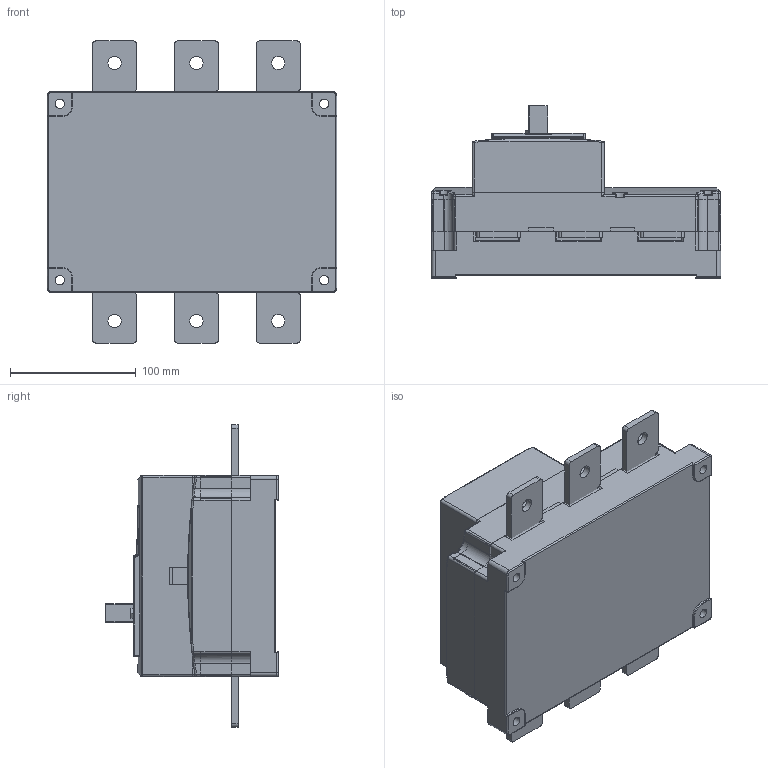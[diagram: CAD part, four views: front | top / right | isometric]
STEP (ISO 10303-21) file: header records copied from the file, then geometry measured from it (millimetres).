
FILE_DESCRIPTION((''),'2;1');
FILE_NAME('NH40-400-3_ASM','2018-05-15T',('zhuanghy'),(''),'PRO/ENGINEER BY PARAMETRIC TECHNOLOGY CORPORATION, 2008380','PRO/ENGINEER BY PARAMETRIC TECHNOLOGY CORPORATION, 2008380','');
FILE_SCHEMA(('CONFIG_CONTROL_DESIGN'));
Length unit declared in the file: millimetre
Products named in the file (6): PRT0041; PRT0042; PRT0043; NH40-400JINGCHUTOU_64; ASM0010_ASM; NH40-400-3_ASM
Assembly tree (10 placements, depth 3):
  NH40-400-3_ASM
    ASM0010_ASM
      PRT0041
      PRT0042
      PRT0043
      NH40-400JINGCHUTOU_64  x6
Bounding box: 230 x 137 x 240 mm (x, y, z)
Volume: 3581054.3 mm3; surface area: 377683.4 mm2
Topology: 9 solids, 9 shells, 836 faces, 2188 edges, 1376 vertices
Faces by surface type: cylinder 341, plane 327, bspline 83, torus 73, sphere 10, cone 2
Entity records: 28616 total; most frequent: CARTESIAN_POINT 11091, ORIENTED_EDGE 3764, DIRECTION 3522, EDGE_CURVE 1882, AXIS2_PLACEMENT_3D 1280, VERTEX_POINT 1176, VECTOR 962, LINE 962
